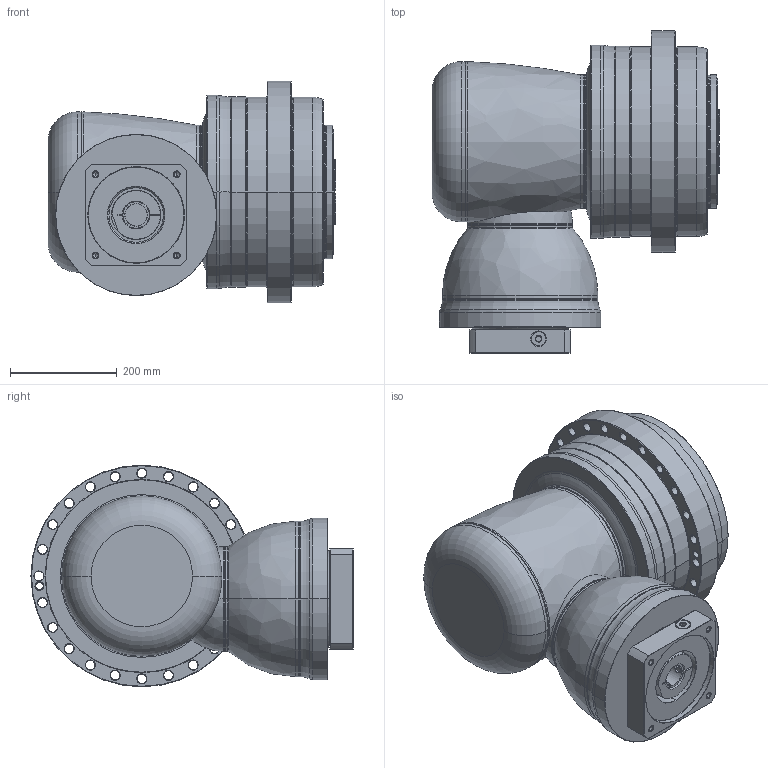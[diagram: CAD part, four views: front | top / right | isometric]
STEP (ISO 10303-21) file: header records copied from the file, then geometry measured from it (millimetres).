
FILE_DESCRIPTION((''),'2;1');
FILE_NAME('APCK355_2ST_42-P0409A00201_ASM','2018-05-10T',('d01226'),(''),'PRO/ENGINEER BY PARAMETRIC TECHNOLOGY CORPORATION, 2008410','PRO/ENGINEER BY PARAMETRIC TECHNOLOGY CORPORATION, 2008410','');
FILE_SCHEMA(('CONFIG_CONTROL_DESIGN'));
Length unit declared in the file: millimetre
Products named in the file (13): P1008800002; P1315800001; P1007801001; P1318810201; P0409A00201; P0503A00012; P0912802001; 21711422019; P1831100001; P0276101003; P03571G0103; P1222100001; APCK355_2ST_42-P0409A00201_ASM
Assembly tree (12 placements, depth 2):
  APCK355_2ST_42-P0409A00201_ASM
    P1008800002
    P1315800001
    P1007801001
    P1318810201
    P0409A00201
    P0503A00012
    P0912802001
    21711422019
    P1831100001
    P0276101003
    P03571G0103
    P1222100001
Bounding box: 539.1 x 603 x 415 mm (x, y, z)
Volume: 59746686.4 mm3; surface area: 2496730.5 mm2
Topology: 13 solids, 25 shells, 811 faces, 1945 edges, 1191 vertices
Faces by surface type: cone 262, cylinder 228, plane 155, torus 144, bspline 20, sphere 2
Entity records: 30391 total; most frequent: CARTESIAN_POINT 11009, DIRECTION 4342, ORIENTED_EDGE 3812, EDGE_CURVE 1931, AXIS2_PLACEMENT_3D 1920, VERTEX_POINT 1191, CIRCLE 1092, EDGE_LOOP 924
